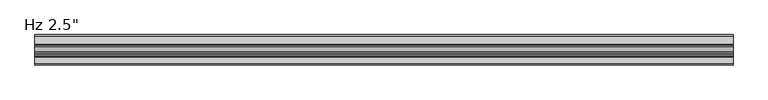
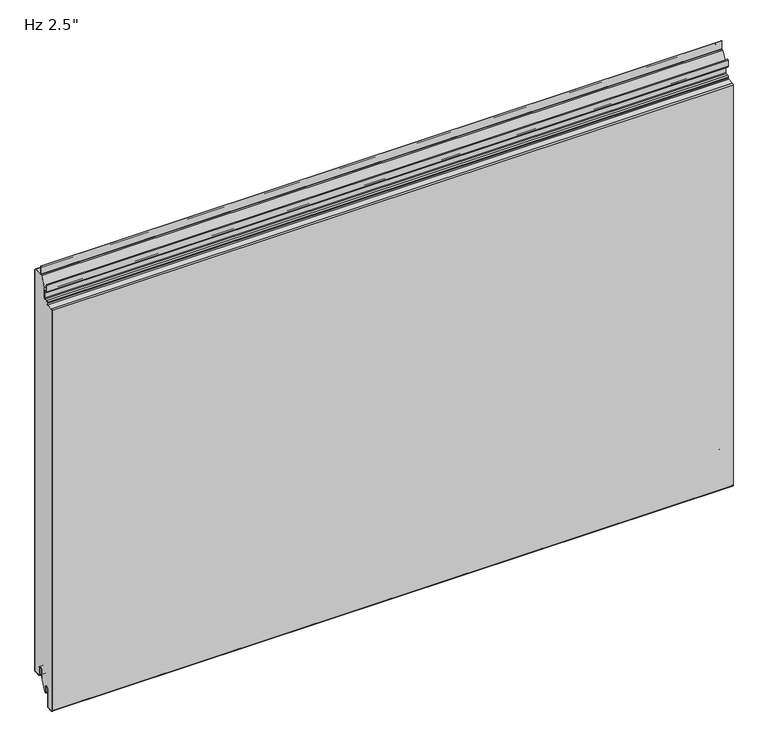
"""IFC4 building model written with IfcOpenShell, lengths in millimetres: plate geometry."""

from ifc_helpers import new_model, si_unit, point, frame, frame_2d, origin, place, context, project, spatial, polyline, circle_curve, ellipse_curve, trimmed, segment, composite_curve, outline, extrude, source, transform, mapped, element, save
from ifc_brep_helpers import plane_surface, cylinder_surface, revolved_surface, extruded_surface, advanced_brep


def plate_47ceeb69(model_context):
    return source(origin(), model_context, "Body", "SolidModel", [
        extrude(outline(composite_curve([segment(trimmed(circle_curve(frame_2d((-21.43125, 19.05)), 4.96875), [point((-16.4625, 19.05))], [point((-26.4, 19.05))], True, "CARTESIAN"), True, "CONTINUOUS"), segment(polyline([(-26.4, 19.05), (-26.4, -3.1323422), (-36.5326309, -23.01875), (-38.1, -23.01875), (-38.1, -13.5080174), (-38.89375, -13.5080174), (-38.6875, -11.9205174)]), True, "CONTINUOUS"), segment(trimmed(circle_curve(frame_2d((-43.65625, -11.9205174)), 4.96875), [point((-38.6875, -11.9205174))], [point((-48.625, -11.9205174))], True, "CARTESIAN"), True, "CONTINUOUS"), segment(polyline([(-48.625, -11.9205174), (-48.625, -50.1038221)]), True, "CONTINUOUS"), segment(trimmed(circle_curve(frame_2d((-50.00625, -50.1038221)), 1.38125), [point((-48.625, -50.1038221))], [point((-49.933961, -51.4831791))], False, "CARTESIAN"), True, "CONTINUOUS"), segment(polyline([(-49.933961, -51.4831791), (-61.046461, -52.0655606)]), True, "CONTINUOUS"), segment(trimmed(circle_curve(frame_2d((-61.11875, -50.6862035)), 1.38125), [point((-61.046461, -52.0655606))], [point((-62.5, -50.6862035))], False, "CARTESIAN"), True, "CONTINUOUS"), segment(polyline([(-62.5, -50.6862035), (-62.5, 857.3572607)]), True, "CONTINUOUS"), segment(trimmed(circle_curve(frame_2d((-61.11875, 857.3572607)), 1.38125), [point((-62.5, 857.3572607))], [point((-61.191039, 858.7366177))], False, "CARTESIAN"), True, "CONTINUOUS"), segment(polyline([(-61.191039, 858.7366177), (-47.4895807, 859.4546807)]), True, "CONTINUOUS"), segment(trimmed(circle_curve(frame_2d((-47.625, 862.0386347)), 2.5875), [point((-47.4895807, 859.4546807))], [point((-45.0375, 862.0386347))], True, "CARTESIAN"), True, "CONTINUOUS"), segment(polyline([(-45.0375, 862.0386347), (-45.0375, 865.0824411)]), True, "CONTINUOUS"), segment(trimmed(circle_curve(frame_2d((-43.65625, 865.0824411)), 1.38125), [point((-45.0375, 865.0824411))], [point((-43.728539, 866.4617981))], False, "CARTESIAN"), True, "CONTINUOUS"), segment(polyline([(-43.728539, 866.4617981), (-37.9645807, 866.7638744)]), True, "CONTINUOUS"), segment(trimmed(circle_curve(frame_2d((-38.1, 869.3478283)), 2.5875), [point((-37.9645807, 866.7638744))], [point((-35.5125, 869.3478283))], True, "CARTESIAN"), True, "CONTINUOUS"), segment(polyline([(-35.5125, 869.3478283), (-35.5125, 891.7892934), (-24.9057308, 912.60625), (-2.38125, 912.60625)]), True, "CONTINUOUS"), segment(trimmed(circle_curve(frame_2d((-2.38125, 911.225)), 1.38125), [point((-2.38125, 912.60625))], [point((-1.0, 911.225))], False, "CARTESIAN"), True, "CONTINUOUS"), segment(polyline([(-1.0, 911.225), (-1.0, 3.175)]), True, "CONTINUOUS"), segment(trimmed(circle_curve(frame_2d((-2.38125, 3.175)), 1.38125), [point((-1.0, 3.175))], [point((-2.38125, 1.79375))], False, "CARTESIAN"), True, "CONTINUOUS"), segment(polyline([(-2.38125, 1.79375), (-15.08125, 1.79375)]), True, "CONTINUOUS"), segment(trimmed(circle_curve(frame_2d((-15.08125, 3.175)), 1.38125), [point((-15.08125, 1.79375))], [point((-16.4625, 3.175))], False, "CARTESIAN"), True, "CONTINUOUS"), segment(polyline([(-16.4625, 3.175), (-16.4625, 19.05)]), True, "CONTINUOUS")], self_intersect=False)), frame((-730.0, 0.0, 0.0), z_axis=(1.0, 0.0, 0.0), x_axis=(0.0, 1.0, 0.0)), (0.0, 0.0, 1.0), 1460.0),
        extrude(outline(composite_curve([segment(polyline([(-25.4, 0.79375), (-26.4, 0.79375), (-26.4, 19.05)]), True, "CONTINUOUS"), segment(trimmed(circle_curve(frame_2d((-21.43125, 19.05)), 4.96875), [point((-26.4, 19.05))], [point((-16.4625, 19.05))], False, "CARTESIAN"), True, "CONTINUOUS"), segment(polyline([(-16.4625, 19.05), (-16.4625, 3.175)]), True, "CONTINUOUS"), segment(trimmed(circle_curve(frame_2d((-15.08125, 3.175)), 1.38125), [point((-16.4625, 3.175))], [point((-15.08125, 1.79375))], True, "CARTESIAN"), True, "CONTINUOUS"), segment(polyline([(-15.08125, 1.79375), (-2.38125, 1.79375)]), True, "CONTINUOUS"), segment(trimmed(circle_curve(frame_2d((-2.38125, 3.175)), 1.38125), [point((-2.38125, 1.79375))], [point((-1.0, 3.175))], True, "CARTESIAN"), True, "CONTINUOUS"), segment(polyline([(-1.0, 3.175), (-1.0, 911.225)]), True, "CONTINUOUS"), segment(trimmed(circle_curve(frame_2d((-2.38125, 911.225)), 1.38125), [point((-1.0, 911.225))], [point((-2.38125, 912.60625))], True, "CARTESIAN"), True, "CONTINUOUS"), segment(polyline([(-2.38125, 912.60625), (-19.446875, 912.60625)]), True, "CONTINUOUS"), segment(trimmed(circle_curve(frame_2d((-19.446875, 915.19375)), 2.5875), [point((-19.446875, 912.60625))], [point((-22.034375, 915.19375))], False, "CARTESIAN"), True, "CONTINUOUS"), segment(polyline([(-22.034375, 915.19375), (-22.034375, 932.65625), (-21.034375, 932.65625), (-21.034375, 915.19375)]), True, "CONTINUOUS"), segment(trimmed(circle_curve(frame_2d((-19.446875, 915.19375)), 1.5875), [point((-21.034375, 915.19375))], [point((-19.446875, 913.60625))], True, "CARTESIAN"), True, "CONTINUOUS"), segment(polyline([(-19.446875, 913.60625), (-2.38125, 913.60625)]), True, "CONTINUOUS"), segment(trimmed(circle_curve(frame_2d((-2.38125, 911.225)), 2.38125), [point((-2.38125, 913.60625))], [point((0.0, 911.225))], False, "CARTESIAN"), True, "CONTINUOUS"), segment(polyline([(0.0, 911.225), (0.0, 3.175)]), True, "CONTINUOUS"), segment(trimmed(circle_curve(frame_2d((-2.38125, 3.175)), 2.38125), [point((0.0, 3.175))], [point((-2.38125, 0.79375))], False, "CARTESIAN"), True, "CONTINUOUS"), segment(polyline([(-2.38125, 0.79375), (-15.08125, 0.79375)]), True, "CONTINUOUS"), segment(trimmed(circle_curve(frame_2d((-15.08125, 3.175)), 2.38125), [point((-15.08125, 0.79375))], [point((-17.4625, 3.175))], False, "CARTESIAN"), True, "CONTINUOUS"), segment(polyline([(-17.4625, 3.175), (-17.4625, 19.05)]), True, "CONTINUOUS"), segment(trimmed(circle_curve(frame_2d((-21.43125, 19.05)), 3.96875), [point((-17.4625, 19.05))], [point((-25.4, 19.05))], True, "CARTESIAN"), True, "CONTINUOUS"), segment(polyline([(-25.4, 19.05), (-25.4, 0.79375)]), True, "CONTINUOUS")], self_intersect=False)), frame((-730.0, 0.0, 0.0), z_axis=(1.0, 0.0, 0.0), x_axis=(0.0, 1.0, 0.0)), (0.0, 0.0, 1.0), 1460.0),
        advanced_brep(
        [(-730.0, -38.1, -23.2314549), (-730.0, -39.6875, -23.2314549), (-730.0, -39.6875, -11.9205174), (-730.0, -47.625, -11.9205174), (-730.0, -47.625, -50.1038221), (-730.0, -49.881625, -52.4818086), (-730.0, -60.994125, -53.0641901), (-730.0, -63.5, -50.6862035), (-730.0, -63.5, 857.3572607), (-730.0, -61.243375, 859.7352473), (-730.0, -47.5419167, 860.4533103), (-730.0, -46.0375, 862.0386347), (-730.0, -46.0375, 865.0824411), (-730.0, -43.780875, 867.4604276), (-730.0, -38.0169167, 867.7625039), (-730.0, -36.5125, 869.3478283), (-730.0, -36.5125, 884.2232326), (-730.0, -38.1, 885.8107326), (-730.0, -42.2671875, 885.8107326), (-730.0, -44.6484375, 888.1919826), (-730.0, -44.6484375, 902.6836032), (-730.0, -42.8546875, 902.6836032), (-730.0, -42.8546875, 892.9544826), (-730.0, -43.6484375, 892.9544826), (-730.0, -43.6484375, 888.1919826), (-730.0, -42.2671875, 886.8107326), (-730.0, -38.1, 886.8107326), (-730.0, -35.5125, 884.2232326), (-730.0, -35.5125, 869.3478283), (-730.0, -37.9645807, 866.7638744), (-730.0, -43.728539, 866.4617981), (-730.0, -45.0375, 865.0824411), (-730.0, -45.0375, 862.0386347), (-730.0, -47.4895807, 859.4546807), (-730.0, -61.191039, 858.7366177), (-730.0, -62.5, 857.3572607), (-730.0, -62.5, -50.6862035), (-730.0, -61.046461, -52.0655606), (-730.0, -49.933961, -51.4831791), (-730.0, -48.625, -50.1038221), (-730.0, -48.625, -11.9205174), (-730.0, -38.6875, -11.9205174), (-730.0, -38.89375, -13.5080174), (-730.0, -38.1, -13.5080174), (730.0, -38.1, -23.2314549), (730.0, -38.1, -13.5080174), (730.0, -38.89375, -13.5080174), (730.0, -38.6875, -11.9205174), (730.0, -48.625, -11.9205174), (730.0, -48.625, -50.1038221), (730.0, -49.933961, -51.4831791), (730.0, -61.046461, -52.0655606), (730.0, -62.5, -50.6862035), (730.0, -62.5, 857.3572607), (730.0, -61.191039, 858.7366177), (730.0, -47.4895807, 859.4546807), (730.0, -45.0375, 862.0386347), (730.0, -45.0375, 865.0824411), (730.0, -43.728539, 866.4617981), (730.0, -37.9645807, 866.7638744), (730.0, -35.5125, 869.3478283), (730.0, -35.5125, 884.2232326), (730.0, -38.1, 886.8107326), (730.0, -42.2671875, 886.8107326), (730.0, -43.6484375, 888.1919826), (730.0, -43.6484375, 892.9544826), (730.0, -42.8546875, 892.9544826), (730.0, -42.8546875, 902.6836032), (730.0, -44.6484375, 902.6836032), (730.0, -44.6484375, 888.1919826), (730.0, -42.2671875, 885.8107326), (730.0, -38.1, 885.8107326), (730.0, -36.5125, 884.2232326), (730.0, -36.5125, 869.3478283), (730.0, -38.0169167, 867.7625039), (730.0, -43.780875, 867.4604276), (730.0, -46.0375, 865.0824411), (730.0, -46.0375, 862.0386347), (730.0, -47.5419167, 860.4533103), (730.0, -61.243375, 859.7352473), (730.0, -63.5, 857.3572607), (730.0, -63.5, -50.6862035), (730.0, -60.994125, -53.0641901), (730.0, -49.881625, -52.4818086), (730.0, -47.625, -50.1038221), (730.0, -47.625, -11.9205174), (730.0, -39.6875, -11.9205174), (730.0, -39.6875, -23.2314549)],
        [
            (0, 1, circle_curve(frame((-730.0, -38.89375, -23.2314549), z_axis=(-1.0, 0.0, 0.0), x_axis=(0.0, 0.0, 1.0)), 0.79375)),
            (1, 2),
            (2, 3, circle_curve(frame((-730.0, -43.65625, -11.9205174), z_axis=(1.0, 0.0, 0.0), x_axis=(0.0, 0.0, 1.0)), 3.96875)),
            (3, 4),
            (4, 5, circle_curve(frame((-730.0, -50.00625, -50.1038221), z_axis=(-1.0, 0.0, 0.0), x_axis=(0.0, 0.0, 1.0)), 2.38125)),
            (5, 6),
            (6, 7, circle_curve(frame((-730.0, -61.11875, -50.6862035), z_axis=(-1.0, 0.0, 0.0), x_axis=(0.0, 0.0, 1.0)), 2.38125)),
            (7, 8),
            (8, 9, circle_curve(frame((-730.0, -61.11875, 857.3572607), z_axis=(-1.0, 0.0, 0.0), x_axis=(0.0, 0.0, 1.0)), 2.38125)),
            (9, 10),
            (10, 11, circle_curve(frame((-730.0, -47.625, 862.0386347), z_axis=(1.0, 0.0, 0.0), x_axis=(0.0, 0.0, 1.0)), 1.5875)),
            (11, 12),
            (12, 13, circle_curve(frame((-730.0, -43.65625, 865.0824411), z_axis=(-1.0, 0.0, 0.0), x_axis=(0.0, 0.0, 1.0)), 2.38125)),
            (13, 14),
            (14, 15, circle_curve(frame((-730.0, -38.1, 869.3478283), z_axis=(1.0, 0.0, 0.0), x_axis=(0.0, 0.0, 1.0)), 1.5875)),
            (15, 16),
            (16, 17, circle_curve(frame((-730.0, -38.1, 884.2232326), z_axis=(1.0, 0.0, 0.0), x_axis=(0.0, 0.0, 1.0)), 1.5875)),
            (17, 18),
            (18, 19, circle_curve(frame((-730.0, -42.2671875, 888.1919826), z_axis=(-1.0, 0.0, 0.0), x_axis=(0.0, 0.0, 1.0)), 2.38125)),
            (19, 20),
            (20, 21, ellipse_curve(frame((-730.0, -43.7515625, 902.6836032), z_axis=(-1.0, 0.0, 0.0), x_axis=(0.0, 1.0, 0.0)), 0.896875, 0.7852275)),
            (21, 22),
            (22, 23),
            (23, 24),
            (24, 25, circle_curve(frame((-730.0, -42.2671875, 888.1919826), z_axis=(1.0, 0.0, 0.0), x_axis=(0.0, 0.0, 1.0)), 1.38125)),
            (25, 26),
            (26, 27, circle_curve(frame((-730.0, -38.1, 884.2232326), z_axis=(-1.0, 0.0, 0.0), x_axis=(0.0, 0.0, 1.0)), 2.5875)),
            (27, 28),
            (28, 29, circle_curve(frame((-730.0, -38.1, 869.3478283), z_axis=(-1.0, 0.0, 0.0), x_axis=(0.0, 0.0, 1.0)), 2.5875)),
            (29, 30),
            (30, 31, circle_curve(frame((-730.0, -43.65625, 865.0824411), z_axis=(1.0, 0.0, 0.0), x_axis=(0.0, 0.0, 1.0)), 1.38125)),
            (31, 32),
            (32, 33, circle_curve(frame((-730.0, -47.625, 862.0386347), z_axis=(-1.0, 0.0, 0.0), x_axis=(0.0, 0.0, 1.0)), 2.5875)),
            (33, 34),
            (34, 35, circle_curve(frame((-730.0, -61.11875, 857.3572607), z_axis=(1.0, 0.0, 0.0), x_axis=(0.0, 0.0, 1.0)), 1.38125)),
            (35, 36),
            (36, 37, circle_curve(frame((-730.0, -61.11875, -50.6862035), z_axis=(1.0, 0.0, 0.0), x_axis=(0.0, 0.0, 1.0)), 1.38125)),
            (37, 38),
            (38, 39, circle_curve(frame((-730.0, -50.00625, -50.1038221), z_axis=(1.0, 0.0, 0.0), x_axis=(0.0, 0.0, 1.0)), 1.38125)),
            (39, 40),
            (40, 41, circle_curve(frame((-730.0, -43.65625, -11.9205174), z_axis=(-1.0, 0.0, 0.0), x_axis=(0.0, 0.0, 1.0)), 4.96875)),
            (41, 42),
            (42, 43),
            (43, 0),
            (44, 45),
            (45, 46),
            (46, 47),
            (47, 48, circle_curve(frame((730.0, -43.65625, -11.9205174), z_axis=(1.0, 0.0, 0.0), x_axis=(0.0, 0.0, 1.0)), 4.96875)),
            (48, 49),
            (49, 50, circle_curve(frame((730.0, -50.00625, -50.1038221), z_axis=(-1.0, 0.0, 0.0), x_axis=(0.0, 0.0, 1.0)), 1.38125)),
            (50, 51),
            (51, 52, circle_curve(frame((730.0, -61.11875, -50.6862035), z_axis=(-1.0, 0.0, 0.0), x_axis=(0.0, 0.0, 1.0)), 1.38125)),
            (52, 53),
            (53, 54, circle_curve(frame((730.0, -61.11875, 857.3572607), z_axis=(-1.0, 0.0, 0.0), x_axis=(0.0, 0.0, 1.0)), 1.38125)),
            (54, 55),
            (55, 56, circle_curve(frame((730.0, -47.625, 862.0386347), z_axis=(1.0, 0.0, 0.0), x_axis=(0.0, 0.0, 1.0)), 2.5875)),
            (56, 57),
            (57, 58, circle_curve(frame((730.0, -43.65625, 865.0824411), z_axis=(-1.0, 0.0, 0.0), x_axis=(0.0, 0.0, 1.0)), 1.38125)),
            (58, 59),
            (59, 60, circle_curve(frame((730.0, -38.1, 869.3478283), z_axis=(1.0, 0.0, 0.0), x_axis=(0.0, 0.0, 1.0)), 2.5875)),
            (60, 61),
            (61, 62, circle_curve(frame((730.0, -38.1, 884.2232326), z_axis=(1.0, 0.0, 0.0), x_axis=(0.0, 0.0, 1.0)), 2.5875)),
            (62, 63),
            (63, 64, circle_curve(frame((730.0, -42.2671875, 888.1919826), z_axis=(-1.0, 0.0, 0.0), x_axis=(0.0, 0.0, 1.0)), 1.38125)),
            (64, 65),
            (65, 66),
            (66, 67),
            (67, 68, ellipse_curve(frame((730.0, -43.7515625, 902.6836032), z_axis=(1.0, 0.0, 0.0), x_axis=(0.0, 1.0, 0.0)), 0.896875, 0.7852275)),
            (68, 69),
            (69, 70, circle_curve(frame((730.0, -42.2671875, 888.1919826), z_axis=(1.0, 0.0, 0.0), x_axis=(0.0, 0.0, 1.0)), 2.38125)),
            (70, 71),
            (71, 72, circle_curve(frame((730.0, -38.1, 884.2232326), z_axis=(-1.0, 0.0, 0.0), x_axis=(0.0, 0.0, 1.0)), 1.5875)),
            (72, 73),
            (73, 74, circle_curve(frame((730.0, -38.1, 869.3478283), z_axis=(-1.0, 0.0, 0.0), x_axis=(0.0, 0.0, 1.0)), 1.5875)),
            (74, 75),
            (75, 76, circle_curve(frame((730.0, -43.65625, 865.0824411), z_axis=(1.0, 0.0, 0.0), x_axis=(0.0, 0.0, 1.0)), 2.38125)),
            (76, 77),
            (77, 78, circle_curve(frame((730.0, -47.625, 862.0386347), z_axis=(-1.0, 0.0, 0.0), x_axis=(0.0, 0.0, 1.0)), 1.5875)),
            (78, 79),
            (79, 80, circle_curve(frame((730.0, -61.11875, 857.3572607), z_axis=(1.0, 0.0, 0.0), x_axis=(0.0, 0.0, 1.0)), 2.38125)),
            (80, 81),
            (81, 82, circle_curve(frame((730.0, -61.11875, -50.6862035), z_axis=(1.0, 0.0, 0.0), x_axis=(0.0, 0.0, 1.0)), 2.38125)),
            (82, 83),
            (83, 84, circle_curve(frame((730.0, -50.00625, -50.1038221), z_axis=(1.0, 0.0, 0.0), x_axis=(0.0, 0.0, 1.0)), 2.38125)),
            (84, 85),
            (85, 86, circle_curve(frame((730.0, -43.65625, -11.9205174), z_axis=(-1.0, 0.0, 0.0), x_axis=(0.0, 0.0, 1.0)), 3.96875)),
            (86, 87),
            (87, 44, circle_curve(frame((730.0, -38.89375, -23.2314549), z_axis=(1.0, 0.0, 0.0), x_axis=(0.0, 0.0, 1.0)), 0.79375)),
            (23, 65),
            (64, 24),
            (28, 60),
            (59, 29),
            (58, 30),
            (57, 31),
            (56, 32),
            (55, 33),
            (54, 34),
            (53, 35),
            (52, 36),
            (51, 37),
            (50, 38),
            (49, 39),
            (48, 40),
            (43, 45),
            (44, 0),
            (87, 1),
            (86, 2),
            (85, 3),
            (84, 4),
            (83, 5),
            (82, 6),
            (81, 7),
            (80, 8),
            (79, 9),
            (78, 10),
            (77, 11),
            (76, 12),
            (75, 13),
            (74, 14),
            (73, 15),
            (72, 16),
            (71, 17),
            (70, 18),
            (69, 19),
            (68, 20),
            (27, 61),
            (26, 62),
            (25, 63),
            (21, 67),
            (66, 22),
            (41, 47),
            (46, 42),
        ],
        [
            plane_surface(frame((-730.0, -63.5, 457.2), z_axis=(-1.0, 0.0, 0.0), x_axis=(0.0, -1.0, 0.0))),
            plane_surface(frame((730.0, -63.5, 457.2), z_axis=(1.0, 0.0, 0.0), x_axis=(0.0, -1.0, 0.0))),
            plane_surface(frame((-730.0, -43.6484375, 888.1919826), z_axis=(0.0, 1.0, 0.0), x_axis=(1.0, 0.0, 0.0))),
            cylinder_surface(frame((-730.0, -38.1, 869.3478283), z_axis=(-1.0, 0.0, 0.0), x_axis=(0.0, 0.0, 1.0)), 2.5875),
            plane_surface(frame((-730.0, -43.728539, 866.4617981), z_axis=(0.0, 0.0523359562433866, -0.9986295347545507), x_axis=(1.0, 0.0, 0.0))),
            revolved_surface(polyline([(730.0, -43.65625, 866.4636911), (-730.0, -43.65625, 866.4636911)]), (-730.0, -43.65625, 865.0824411), (1.0, 0.0, 0.0)),
            plane_surface(frame((-730.0, -45.0375, 862.0386347), z_axis=(0.0, 1.0, 0.0), x_axis=(1.0, 0.0, 0.0))),
            cylinder_surface(frame((-730.0, -47.625, 862.0386347), z_axis=(-1.0, 0.0, 0.0), x_axis=(0.0, 0.0, 1.0)), 2.5875),
            plane_surface(frame((-730.0, -61.191039, 858.7366177), z_axis=(0.0, 0.05233595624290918, -0.9986295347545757), x_axis=(1.0, 0.0, 0.0))),
            revolved_surface(polyline([(730.0, -61.11875, 858.7385107), (-730.0, -61.11875, 858.7385107)]), (-730.0, -61.11875, 857.3572607), (1.0, 0.0, 0.0)),
            plane_surface(frame((-730.0, -62.5, -50.6862035), z_axis=(0.0, 1.0, 0.0), x_axis=(1.0, 0.0, 0.0))),
            revolved_surface(polyline([(730.0, -61.11875, -49.304953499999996), (-730.0, -61.11875, -49.304953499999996)]), (-730.0, -61.11875, -50.6862035), (1.0, 0.0, 0.0)),
            plane_surface(frame((-730.0, -49.933961, -51.4831791), z_axis=(0.0, -0.05233595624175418, 0.9986295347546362), x_axis=(1.0, 0.0, 0.0))),
            revolved_surface(polyline([(730.0, -50.00625, -48.7225721), (-730.0, -50.00625, -48.7225721)]), (-730.0, -50.00625, -50.1038221), (1.0, 0.0, 0.0)),
            plane_surface(frame((-730.0, -48.625, -11.9205174), z_axis=(0.0, -1.0, 0.0), x_axis=(1.0, 0.0, 0.0))),
            plane_surface(frame((-730.0, -38.1, -23.2314549), z_axis=(0.0, 1.0, 0.0), x_axis=(1.0, 0.0, 0.0))),
            cylinder_surface(frame((-730.0, -38.89375, -23.2314549), z_axis=(-1.0, 0.0, 0.0), x_axis=(0.0, 0.0, 1.0)), 0.79375),
            plane_surface(frame((-730.0, -39.6875, -11.9205174), z_axis=(0.0, -1.0, 0.0), x_axis=(1.0, 0.0, 0.0))),
            revolved_surface(polyline([(730.0, -43.65625, -7.9517674), (-730.0, -43.65625, -7.9517674)]), (-730.0, -43.65625, -11.9205174), (1.0, 0.0, 0.0)),
            plane_surface(frame((-730.0, -47.625, -50.1038221), z_axis=(0.0, 1.0, 0.0), x_axis=(1.0, 0.0, 0.0))),
            cylinder_surface(frame((-730.0, -50.00625, -50.1038221), z_axis=(-1.0, 0.0, 0.0), x_axis=(0.0, 0.0, 1.0)), 2.38125),
            plane_surface(frame((-730.0, -60.994125, -53.0641901), z_axis=(0.0, 0.05233595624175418, -0.9986295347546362), x_axis=(1.0, 0.0, 0.0))),
            cylinder_surface(frame((-730.0, -61.11875, -50.6862035), z_axis=(-1.0, 0.0, 0.0), x_axis=(0.0, 0.0, 1.0)), 2.38125),
            plane_surface(frame((-730.0, -63.5, 857.3572607), z_axis=(0.0, -1.0, 0.0), x_axis=(1.0, 0.0, 0.0))),
            cylinder_surface(frame((-730.0, -61.11875, 857.3572607), z_axis=(-1.0, 0.0, 0.0), x_axis=(0.0, 0.0, 1.0)), 2.38125),
            plane_surface(frame((-730.0, -47.5419167, 860.4533103), z_axis=(0.0, -0.052335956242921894, 0.998629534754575), x_axis=(1.0, 0.0, 0.0))),
            revolved_surface(polyline([(730.0, -47.625, 863.6261347), (-730.0, -47.625, 863.6261347)]), (-730.0, -47.625, 862.0386347), (1.0, 0.0, 0.0)),
            plane_surface(frame((-730.0, -46.0375, 865.0824411), z_axis=(0.0, -1.0, 0.0), x_axis=(1.0, 0.0, 0.0))),
            cylinder_surface(frame((-730.0, -43.65625, 865.0824411), z_axis=(-1.0, 0.0, 0.0), x_axis=(0.0, 0.0, 1.0)), 2.38125),
            plane_surface(frame((-730.0, -38.0169167, 867.7625039), z_axis=(0.0, -0.05233595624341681, 0.9986295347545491), x_axis=(1.0, 0.0, 0.0))),
            revolved_surface(polyline([(730.0, -38.1, 870.9353282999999), (-730.0, -38.1, 870.9353282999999)]), (-730.0, -38.1, 869.3478283), (1.0, 0.0, 0.0)),
            plane_surface(frame((-730.0, -36.5125, 884.2232326), z_axis=(0.0, -1.0, 0.0), x_axis=(1.0, 0.0, 0.0))),
            revolved_surface(polyline([(730.0, -38.1, 885.8107325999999), (-730.0, -38.1, 885.8107325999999)]), (-730.0, -38.1, 884.2232326), (1.0, 0.0, 0.0)),
            plane_surface(frame((-730.0, -42.2671875, 885.8107326), z_axis=(0.0, 0.0, -1.0), x_axis=(1.0, 0.0, 0.0))),
            cylinder_surface(frame((-730.0, -42.2671875, 888.1919826), z_axis=(-1.0, 0.0, 0.0), x_axis=(0.0, 0.0, 1.0)), 2.38125),
            plane_surface(frame((-730.0, -44.6484375, 902.6836032), z_axis=(0.0, -1.0, 0.0), x_axis=(1.0, 0.0, 0.0))),
            plane_surface(frame((-730.0, -35.5125, 869.3478283), z_axis=(0.0, 1.0, 0.0), x_axis=(1.0, 0.0, 0.0))),
            cylinder_surface(frame((-730.0, -38.1, 884.2232326), z_axis=(-1.0, 0.0, 0.0), x_axis=(0.0, 0.0, 1.0)), 2.5875),
            plane_surface(frame((-730.0, -38.1, 886.8107326), z_axis=(0.0, 0.0, 1.0), x_axis=(1.0, 0.0, 0.0))),
            revolved_surface(polyline([(730.0, -42.2671875, 889.5732326), (-730.0, -42.2671875, 889.5732326)]), (-730.0, -42.2671875, 888.1919826), (1.0, 0.0, 0.0)),
            plane_surface(frame((-730.0, -42.8546875, 892.9544826), z_axis=(0.0, 1.0, 0.0), x_axis=(1.0, 0.0, 0.0))),
            extruded_surface(trimmed(ellipse_curve(frame((-730.0, -43.7515625, 902.6836032), z_axis=(1.0, 0.0, 0.0), x_axis=(0.0, 1.0, 0.0)), 0.896875, 0.7852275), [point((-730.0, -42.8546875, 902.6836032))], [point((-730.0, -44.6484375, 902.6836032))], True, "CARTESIAN"), (1460.0, 0.0, 0.0), 1460.0),
            plane_surface(frame((-730.0, -38.89375, -13.5080174), z_axis=(0.0, 0.9916655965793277, -0.12883844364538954), x_axis=(1.0, 0.0, 0.0))),
            cylinder_surface(frame((-730.0, -43.65625, -11.9205174), z_axis=(-1.0, 0.0, 0.0), x_axis=(0.0, 0.0, 1.0)), 4.96875),
            plane_surface(frame((-730.0, -38.1, -13.5080174), z_axis=(0.0, 0.0, 1.0), x_axis=(1.0, 0.0, 0.0))),
            plane_surface(frame((-730.0, -43.6484375, 892.9544826), z_axis=(0.0, 0.0, -1.0), x_axis=(1.0, 0.0, 0.0))),
        ],
        [
            (0, [[1, 2, 3, 4, 5, 6, 7, 8, 9, 10, 11, 12, 13, 14, 15, 16, 17, 18, 19, 20, 21, 22, 23, 24, 25, 26, 27, 28, 29, 30, 31, 32, 33, 34, 35, 36, 37, 38, 39, 40, 41, 42, 43, 44]]),
            (1, [[45, 46, 47, 48, 49, 50, 51, 52, 53, 54, 55, 56, 57, 58, 59, 60, 61, 62, 63, 64, 65, 66, 67, 68, 69, 70, 71, 72, 73, 74, 75, 76, 77, 78, 79, 80, 81, 82, 83, 84, 85, 86, 87, 88]]),
            (2, [[89, -65, 90, -24]]),
            (3, [[91, -60, 92, -29]]),
            (4, [[-92, -59, 93, -30]]),
            (5, [[-93, -58, 94, -31]]),
            (6, [[-94, -57, 95, -32]]),
            (7, [[-95, -56, 96, -33]]),
            (8, [[-96, -55, 97, -34]]),
            (9, [[-97, -54, 98, -35]]),
            (10, [[-98, -53, 99, -36]]),
            (11, [[-99, -52, 100, -37]]),
            (12, [[-100, -51, 101, -38]]),
            (13, [[-101, -50, 102, -39]]),
            (14, [[-102, -49, 103, -40]]),
            (15, [[104, -45, 105, -44]]),
            (16, [[-105, -88, 106, -1]]),
            (17, [[-106, -87, 107, -2]]),
            (18, [[-107, -86, 108, -3]]),
            (19, [[-108, -85, 109, -4]]),
            (20, [[-109, -84, 110, -5]]),
            (21, [[-110, -83, 111, -6]]),
            (22, [[-111, -82, 112, -7]]),
            (23, [[-112, -81, 113, -8]]),
            (24, [[-113, -80, 114, -9]]),
            (25, [[-114, -79, 115, -10]]),
            (26, [[-115, -78, 116, -11]]),
            (27, [[-116, -77, 117, -12]]),
            (28, [[-117, -76, 118, -13]]),
            (29, [[-118, -75, 119, -14]]),
            (30, [[-119, -74, 120, -15]]),
            (31, [[-120, -73, 121, -16]]),
            (32, [[-121, -72, 122, -17]]),
            (33, [[-122, -71, 123, -18]]),
            (34, [[-123, -70, 124, -19]]),
            (35, [[-124, -69, 125, -20]]),
            (36, [[126, -61, -91, -28]]),
            (37, [[127, -62, -126, -27]]),
            (38, [[128, -63, -127, -26]]),
            (39, [[-90, -64, -128, -25]]),
            (40, [[129, -67, 130, -22]]),
            (41, [[-125, -68, -129, -21]]),
            (42, [[131, -47, 132, -42]]),
            (43, [[-103, -48, -131, -41]]),
            (44, [[-132, -46, -104, -43]]),
            (45, [[-130, -66, -89, -23]]),
        ],
    ),
    ])


if __name__ == "__main__":
    model = new_model("IFC4")
    model_context = context("Model", 3, world=origin())
    ifc_project = project(units=[si_unit("LENGTHUNIT", "METRE", prefix="MILLI")], contexts=[model_context])
    site = spatial("IfcSite", under=ifc_project)
    building = spatial("IfcBuilding", under=site)
    placement = place(None, origin())
    plate_shape = plate_47ceeb69(model_context)
    element("IfcPlate", 1, ObjectType="KIP-36-DWTR-R19-CP-Hz-F : Hz 2.5\"", at=placement, inside=building, context=model_context, shape_type="MappedRepresentation", body=[
        mapped(plate_shape, transform((0.0, 0.0, 0.0), x_axis=(1.0, 0.0, 0.0), y_axis=(0.0, 1.0, 0.0), z_axis=(0.0, 0.0, 1.0))),
    ])
    save(model, "model.ifc")
